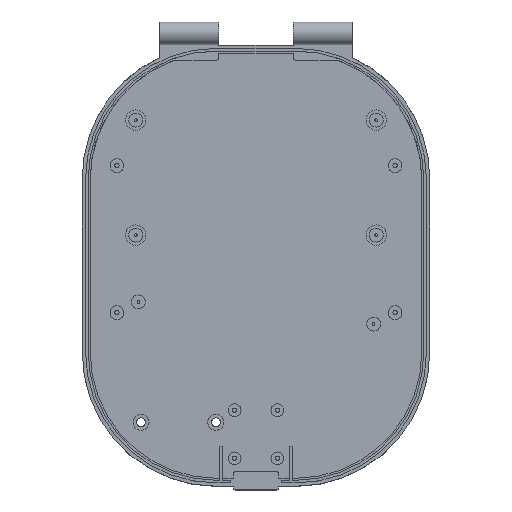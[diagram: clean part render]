
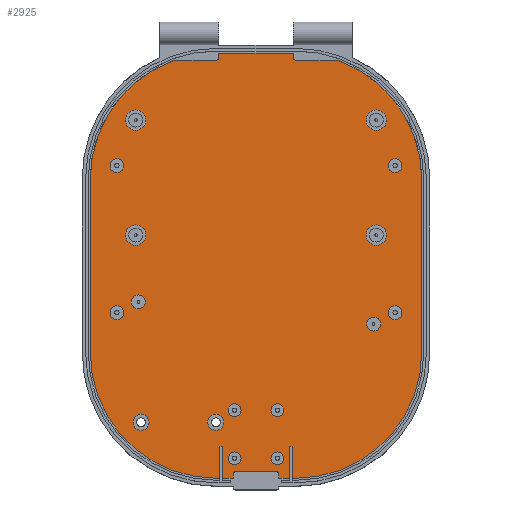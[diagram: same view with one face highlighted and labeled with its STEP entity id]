
A CAD part, top view. The second image highlights one B-rep face of the part: STEP entity #2925.
In plain terms, the highlighted planar face has unit normal (0, 0, 1).
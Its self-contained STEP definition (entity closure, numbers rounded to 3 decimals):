
#1273 = VERTEX_POINT('',#1274);
#1274 = CARTESIAN_POINT('',(-15.,-2.,3.));
#1280 = EDGE_CURVE('',#1273,#1281,#1283,.T.);
#1281 = VERTEX_POINT('',#1282);
#1282 = CARTESIAN_POINT('',(15.,-2.,3.));
#1283 = LINE('',#1284,#1285);
#1284 = CARTESIAN_POINT('',(-15.,-2.,3.));
#1285 = VECTOR('',#1286,1.);
#1286 = DIRECTION('',(1.,0.,0.));
#2905 = EDGE_CURVE('',#1281,#2906,#2908,.T.);
#2906 = VERTEX_POINT('',#2907);
#2907 = CARTESIAN_POINT('',(62.,45.,3.));
#2908 = CIRCLE('',#2909,47.);
#2909 = AXIS2_PLACEMENT_3D('',#2910,#2911,#2912);
#2910 = CARTESIAN_POINT('',(15.,45.,3.));
#2911 = DIRECTION('',(0.,0.,1.));
#2912 = DIRECTION('',(0.,-1.,0.));
#2925 = ADVANCED_FACE('',(#2926,#2979,#2990,#3001,#3012,#3023,#3034,
    #3045,#3056,#3067,#3078,#3089,#3100,#3111,#3122,#3133,#3144),#3155,
  .T.);
#2926 = FACE_BOUND('',#2927,.T.);
#2927 = EDGE_LOOP('',(#2928,#2929,#2930,#2938,#2947,#2955,#2964,#2972));
#2928 = ORIENTED_EDGE('',*,*,#1280,.T.);
#2929 = ORIENTED_EDGE('',*,*,#2905,.T.);
#2930 = ORIENTED_EDGE('',*,*,#2931,.T.);
#2931 = EDGE_CURVE('',#2906,#2932,#2934,.T.);
#2932 = VERTEX_POINT('',#2933);
#2933 = CARTESIAN_POINT('',(62.,110.,3.));
#2934 = LINE('',#2935,#2936);
#2935 = CARTESIAN_POINT('',(62.,45.,3.));
#2936 = VECTOR('',#2937,1.);
#2937 = DIRECTION('',(0.,1.,0.));
#2938 = ORIENTED_EDGE('',*,*,#2939,.T.);
#2939 = EDGE_CURVE('',#2932,#2940,#2942,.T.);
#2940 = VERTEX_POINT('',#2941);
#2941 = CARTESIAN_POINT('',(15.,157.,3.));
#2942 = CIRCLE('',#2943,47.);
#2943 = AXIS2_PLACEMENT_3D('',#2944,#2945,#2946);
#2944 = CARTESIAN_POINT('',(15.,110.,3.));
#2945 = DIRECTION('',(-0.,0.,1.));
#2946 = DIRECTION('',(1.,0.,0.));
#2947 = ORIENTED_EDGE('',*,*,#2948,.T.);
#2948 = EDGE_CURVE('',#2940,#2949,#2951,.T.);
#2949 = VERTEX_POINT('',#2950);
#2950 = CARTESIAN_POINT('',(-15.,157.,3.));
#2951 = LINE('',#2952,#2953);
#2952 = CARTESIAN_POINT('',(15.,157.,3.));
#2953 = VECTOR('',#2954,1.);
#2954 = DIRECTION('',(-1.,0.,0.));
#2955 = ORIENTED_EDGE('',*,*,#2956,.T.);
#2956 = EDGE_CURVE('',#2949,#2957,#2959,.T.);
#2957 = VERTEX_POINT('',#2958);
#2958 = CARTESIAN_POINT('',(-62.,110.,3.));
#2959 = CIRCLE('',#2960,47.);
#2960 = AXIS2_PLACEMENT_3D('',#2961,#2962,#2963);
#2961 = CARTESIAN_POINT('',(-15.,110.,3.));
#2962 = DIRECTION('',(0.,-0.,1.));
#2963 = DIRECTION('',(0.,1.,0.));
#2964 = ORIENTED_EDGE('',*,*,#2965,.T.);
#2965 = EDGE_CURVE('',#2957,#2966,#2968,.T.);
#2966 = VERTEX_POINT('',#2967);
#2967 = CARTESIAN_POINT('',(-62.,45.,3.));
#2968 = LINE('',#2969,#2970);
#2969 = CARTESIAN_POINT('',(-62.,110.,3.));
#2970 = VECTOR('',#2971,1.);
#2971 = DIRECTION('',(0.,-1.,0.));
#2972 = ORIENTED_EDGE('',*,*,#2973,.T.);
#2973 = EDGE_CURVE('',#2966,#1273,#2974,.T.);
#2974 = CIRCLE('',#2975,47.);
#2975 = AXIS2_PLACEMENT_3D('',#2976,#2977,#2978);
#2976 = CARTESIAN_POINT('',(-15.,45.,3.));
#2977 = DIRECTION('',(0.,0.,1.));
#2978 = DIRECTION('',(-1.,0.,0.));
#2979 = FACE_BOUND('',#2980,.T.);
#2980 = EDGE_LOOP('',(#2981));
#2981 = ORIENTED_EDGE('',*,*,#2982,.F.);
#2982 = EDGE_CURVE('',#2983,#2983,#2985,.T.);
#2983 = VERTEX_POINT('',#2984);
#2984 = CARTESIAN_POINT('',(-40.,19.,3.));
#2985 = CIRCLE('',#2986,3.);
#2986 = AXIS2_PLACEMENT_3D('',#2987,#2988,#2989);
#2987 = CARTESIAN_POINT('',(-43.,19.,3.));
#2988 = DIRECTION('',(0.,0.,1.));
#2989 = DIRECTION('',(1.,0.,0.));
#2990 = FACE_BOUND('',#2991,.T.);
#2991 = EDGE_LOOP('',(#2992));
#2992 = ORIENTED_EDGE('',*,*,#2993,.F.);
#2993 = EDGE_CURVE('',#2994,#2994,#2996,.T.);
#2994 = VERTEX_POINT('',#2995);
#2995 = CARTESIAN_POINT('',(-12.,19.,3.));
#2996 = CIRCLE('',#2997,3.);
#2997 = AXIS2_PLACEMENT_3D('',#2998,#2999,#3000);
#2998 = CARTESIAN_POINT('',(-15.,19.,3.));
#2999 = DIRECTION('',(0.,0.,1.));
#3000 = DIRECTION('',(1.,0.,0.));
#3001 = FACE_BOUND('',#3002,.T.);
#3002 = EDGE_LOOP('',(#3003));
#3003 = ORIENTED_EDGE('',*,*,#3004,.F.);
#3004 = EDGE_CURVE('',#3005,#3005,#3007,.T.);
#3005 = VERTEX_POINT('',#3006);
#3006 = CARTESIAN_POINT('',(-5.6,5.5,3.));
#3007 = CIRCLE('',#3008,2.4);
#3008 = AXIS2_PLACEMENT_3D('',#3009,#3010,#3011);
#3009 = CARTESIAN_POINT('',(-8.,5.5,3.));
#3010 = DIRECTION('',(0.,0.,1.));
#3011 = DIRECTION('',(1.,0.,0.));
#3012 = FACE_BOUND('',#3013,.T.);
#3013 = EDGE_LOOP('',(#3014));
#3014 = ORIENTED_EDGE('',*,*,#3015,.F.);
#3015 = EDGE_CURVE('',#3016,#3016,#3018,.T.);
#3016 = VERTEX_POINT('',#3017);
#3017 = CARTESIAN_POINT('',(-5.6,23.5,3.));
#3018 = CIRCLE('',#3019,2.4);
#3019 = AXIS2_PLACEMENT_3D('',#3020,#3021,#3022);
#3020 = CARTESIAN_POINT('',(-8.,23.5,3.));
#3021 = DIRECTION('',(0.,0.,1.));
#3022 = DIRECTION('',(1.,0.,0.));
#3023 = FACE_BOUND('',#3024,.T.);
#3024 = EDGE_LOOP('',(#3025));
#3025 = ORIENTED_EDGE('',*,*,#3026,.F.);
#3026 = EDGE_CURVE('',#3027,#3027,#3029,.T.);
#3027 = VERTEX_POINT('',#3028);
#3028 = CARTESIAN_POINT('',(-49.4,60.,3.));
#3029 = CIRCLE('',#3030,2.6);
#3030 = AXIS2_PLACEMENT_3D('',#3031,#3032,#3033);
#3031 = CARTESIAN_POINT('',(-52.,60.,3.));
#3032 = DIRECTION('',(0.,0.,1.));
#3033 = DIRECTION('',(1.,0.,0.));
#3034 = FACE_BOUND('',#3035,.T.);
#3035 = EDGE_LOOP('',(#3036));
#3036 = ORIENTED_EDGE('',*,*,#3037,.F.);
#3037 = EDGE_CURVE('',#3038,#3038,#3040,.T.);
#3038 = VERTEX_POINT('',#3039);
#3039 = CARTESIAN_POINT('',(-41.4,64.,3.));
#3040 = CIRCLE('',#3041,2.6);
#3041 = AXIS2_PLACEMENT_3D('',#3042,#3043,#3044);
#3042 = CARTESIAN_POINT('',(-44.,64.,3.));
#3043 = DIRECTION('',(0.,0.,1.));
#3044 = DIRECTION('',(1.,0.,0.));
#3045 = FACE_BOUND('',#3046,.T.);
#3046 = EDGE_LOOP('',(#3047));
#3047 = ORIENTED_EDGE('',*,*,#3048,.F.);
#3048 = EDGE_CURVE('',#3049,#3049,#3051,.T.);
#3049 = VERTEX_POINT('',#3050);
#3050 = CARTESIAN_POINT('',(10.4,5.5,3.));
#3051 = CIRCLE('',#3052,2.4);
#3052 = AXIS2_PLACEMENT_3D('',#3053,#3054,#3055);
#3053 = CARTESIAN_POINT('',(8.,5.5,3.));
#3054 = DIRECTION('',(0.,0.,1.));
#3055 = DIRECTION('',(1.,0.,0.));
#3056 = FACE_BOUND('',#3057,.T.);
#3057 = EDGE_LOOP('',(#3058));
#3058 = ORIENTED_EDGE('',*,*,#3059,.F.);
#3059 = EDGE_CURVE('',#3060,#3060,#3062,.T.);
#3060 = VERTEX_POINT('',#3061);
#3061 = CARTESIAN_POINT('',(10.4,23.5,3.));
#3062 = CIRCLE('',#3063,2.4);
#3063 = AXIS2_PLACEMENT_3D('',#3064,#3065,#3066);
#3064 = CARTESIAN_POINT('',(8.,23.5,3.));
#3065 = DIRECTION('',(0.,0.,1.));
#3066 = DIRECTION('',(1.,0.,0.));
#3067 = FACE_BOUND('',#3068,.T.);
#3068 = EDGE_LOOP('',(#3069));
#3069 = ORIENTED_EDGE('',*,*,#3070,.F.);
#3070 = EDGE_CURVE('',#3071,#3071,#3073,.T.);
#3071 = VERTEX_POINT('',#3072);
#3072 = CARTESIAN_POINT('',(46.6,55.7,3.));
#3073 = CIRCLE('',#3074,2.6);
#3074 = AXIS2_PLACEMENT_3D('',#3075,#3076,#3077);
#3075 = CARTESIAN_POINT('',(44.,55.7,3.));
#3076 = DIRECTION('',(0.,0.,1.));
#3077 = DIRECTION('',(1.,0.,0.));
#3078 = FACE_BOUND('',#3079,.T.);
#3079 = EDGE_LOOP('',(#3080));
#3080 = ORIENTED_EDGE('',*,*,#3081,.F.);
#3081 = EDGE_CURVE('',#3082,#3082,#3084,.T.);
#3082 = VERTEX_POINT('',#3083);
#3083 = CARTESIAN_POINT('',(54.6,60.,3.));
#3084 = CIRCLE('',#3085,2.6);
#3085 = AXIS2_PLACEMENT_3D('',#3086,#3087,#3088);
#3086 = CARTESIAN_POINT('',(52.,60.,3.));
#3087 = DIRECTION('',(0.,0.,1.));
#3088 = DIRECTION('',(1.,0.,0.));
#3089 = FACE_BOUND('',#3090,.T.);
#3090 = EDGE_LOOP('',(#3091));
#3091 = ORIENTED_EDGE('',*,*,#3092,.F.);
#3092 = EDGE_CURVE('',#3093,#3093,#3095,.T.);
#3093 = VERTEX_POINT('',#3094);
#3094 = CARTESIAN_POINT('',(-42.4,89.,3.));
#3095 = CIRCLE('',#3096,2.6);
#3096 = AXIS2_PLACEMENT_3D('',#3097,#3098,#3099);
#3097 = CARTESIAN_POINT('',(-45.,89.,3.));
#3098 = DIRECTION('',(0.,0.,1.));
#3099 = DIRECTION('',(1.,0.,0.));
#3100 = FACE_BOUND('',#3101,.T.);
#3101 = EDGE_LOOP('',(#3102));
#3102 = ORIENTED_EDGE('',*,*,#3103,.F.);
#3103 = EDGE_CURVE('',#3104,#3104,#3106,.T.);
#3104 = VERTEX_POINT('',#3105);
#3105 = CARTESIAN_POINT('',(-49.4,115.,3.));
#3106 = CIRCLE('',#3107,2.6);
#3107 = AXIS2_PLACEMENT_3D('',#3108,#3109,#3110);
#3108 = CARTESIAN_POINT('',(-52.,115.,3.));
#3109 = DIRECTION('',(0.,0.,1.));
#3110 = DIRECTION('',(1.,0.,0.));
#3111 = FACE_BOUND('',#3112,.T.);
#3112 = EDGE_LOOP('',(#3113));
#3113 = ORIENTED_EDGE('',*,*,#3114,.F.);
#3114 = EDGE_CURVE('',#3115,#3115,#3117,.T.);
#3115 = VERTEX_POINT('',#3116);
#3116 = CARTESIAN_POINT('',(-42.4,132.,3.));
#3117 = CIRCLE('',#3118,2.6);
#3118 = AXIS2_PLACEMENT_3D('',#3119,#3120,#3121);
#3119 = CARTESIAN_POINT('',(-45.,132.,3.));
#3120 = DIRECTION('',(0.,0.,1.));
#3121 = DIRECTION('',(1.,0.,0.));
#3122 = FACE_BOUND('',#3123,.T.);
#3123 = EDGE_LOOP('',(#3124));
#3124 = ORIENTED_EDGE('',*,*,#3125,.F.);
#3125 = EDGE_CURVE('',#3126,#3126,#3128,.T.);
#3126 = VERTEX_POINT('',#3127);
#3127 = CARTESIAN_POINT('',(47.6,89.,3.));
#3128 = CIRCLE('',#3129,2.6);
#3129 = AXIS2_PLACEMENT_3D('',#3130,#3131,#3132);
#3130 = CARTESIAN_POINT('',(45.,89.,3.));
#3131 = DIRECTION('',(0.,0.,1.));
#3132 = DIRECTION('',(1.,0.,0.));
#3133 = FACE_BOUND('',#3134,.T.);
#3134 = EDGE_LOOP('',(#3135));
#3135 = ORIENTED_EDGE('',*,*,#3136,.F.);
#3136 = EDGE_CURVE('',#3137,#3137,#3139,.T.);
#3137 = VERTEX_POINT('',#3138);
#3138 = CARTESIAN_POINT('',(54.6,115.,3.));
#3139 = CIRCLE('',#3140,2.6);
#3140 = AXIS2_PLACEMENT_3D('',#3141,#3142,#3143);
#3141 = CARTESIAN_POINT('',(52.,115.,3.));
#3142 = DIRECTION('',(0.,0.,1.));
#3143 = DIRECTION('',(1.,0.,0.));
#3144 = FACE_BOUND('',#3145,.T.);
#3145 = EDGE_LOOP('',(#3146));
#3146 = ORIENTED_EDGE('',*,*,#3147,.F.);
#3147 = EDGE_CURVE('',#3148,#3148,#3150,.T.);
#3148 = VERTEX_POINT('',#3149);
#3149 = CARTESIAN_POINT('',(47.6,132.,3.));
#3150 = CIRCLE('',#3151,2.6);
#3151 = AXIS2_PLACEMENT_3D('',#3152,#3153,#3154);
#3152 = CARTESIAN_POINT('',(45.,132.,3.));
#3153 = DIRECTION('',(0.,0.,1.));
#3154 = DIRECTION('',(1.,0.,0.));
#3155 = PLANE('',#3156);
#3156 = AXIS2_PLACEMENT_3D('',#3157,#3158,#3159);
#3157 = CARTESIAN_POINT('',(0.,77.5,3.));
#3158 = DIRECTION('',(0.,0.,1.));
#3159 = DIRECTION('',(1.,0.,0.));
